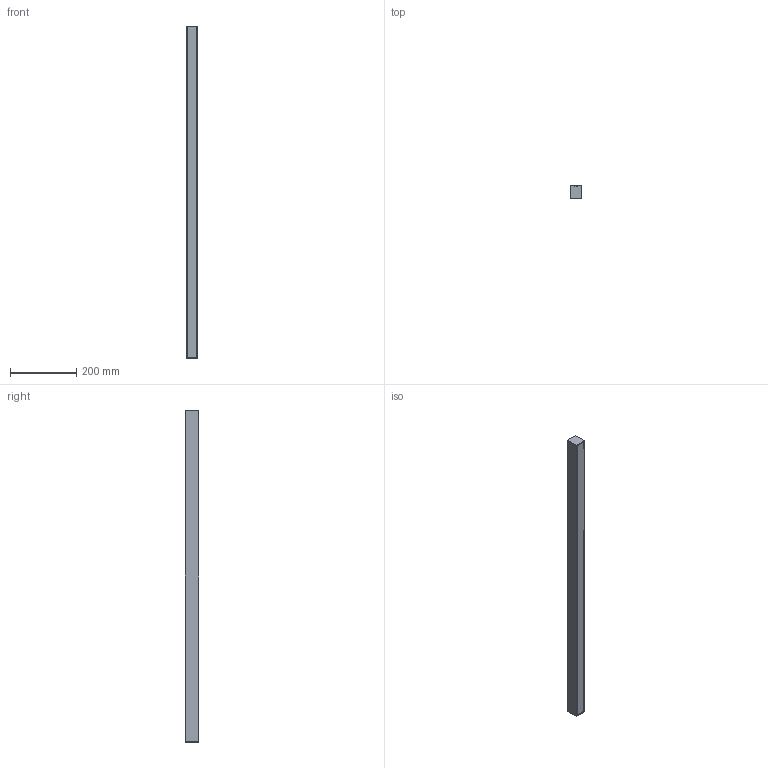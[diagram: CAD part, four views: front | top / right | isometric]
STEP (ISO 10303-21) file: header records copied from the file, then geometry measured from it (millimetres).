
FILE_DESCRIPTION (( 'STEP AP214' ), '1' );
FILE_NAME ('mLight_Pico LED_1000mm.STEP', '2017-05-26T06:57:22', ( 'GR' ), ( 'Hewlett-Packard Company' ), 'SwSTEP 2.0', 'SolidWorks 2017', '' );
FILE_SCHEMA (( 'AUTOMOTIVE_DESIGN' ));
Length unit declared in the file: millimetre
Products named in the file (1): mLight_Pico LED_1000mm
Bounding box: 35.2 x 39.5 x 1006 mm (x, y, z)
Volume: 1362877.7 mm3; surface area: 170878.1 mm2
Topology: 3 solids, 3 shells, 42 faces, 108 edges, 72 vertices
Faces by surface type: plane 36, cylinder 6
Entity records: 1327 total; most frequent: CARTESIAN_POINT 223, ORIENTED_EDGE 216, DIRECTION 206, EDGE_CURVE 108, LINE 96, VECTOR 96, VERTEX_POINT 72, AXIS2_PLACEMENT_3D 55
